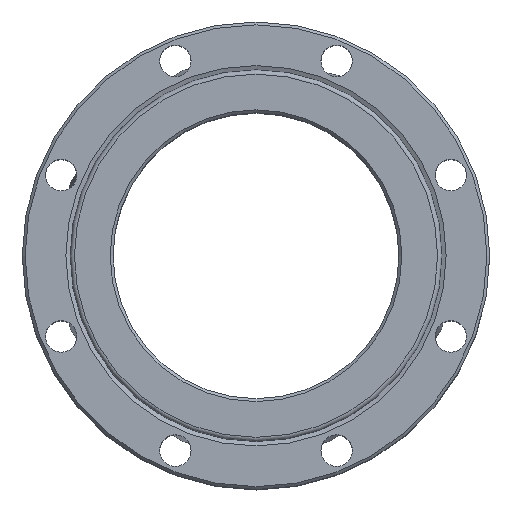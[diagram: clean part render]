
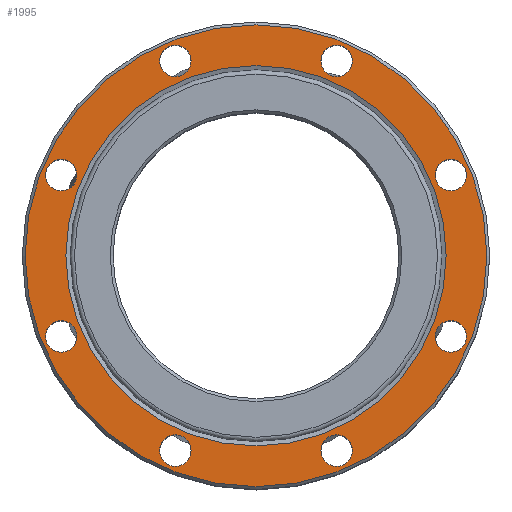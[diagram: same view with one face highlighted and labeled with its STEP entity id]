
A CAD part, top view. The second image highlights one B-rep face of the part: STEP entity #1995.
In plain terms, the highlighted planar face has unit normal (0, 0, 1).
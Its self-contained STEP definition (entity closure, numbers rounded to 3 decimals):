
#170=FACE_BOUND('',#392,.T.);
#171=FACE_BOUND('',#393,.T.);
#172=FACE_BOUND('',#394,.T.);
#173=FACE_BOUND('',#395,.T.);
#174=FACE_BOUND('',#396,.T.);
#175=FACE_BOUND('',#397,.T.);
#176=FACE_BOUND('',#398,.T.);
#177=FACE_BOUND('',#399,.T.);
#178=FACE_BOUND('',#400,.T.);
#187=PLANE('',#2160);
#257=FACE_OUTER_BOUND('',#391,.T.);
#391=EDGE_LOOP('',(#1348));
#392=EDGE_LOOP('',(#1349));
#393=EDGE_LOOP('',(#1350));
#394=EDGE_LOOP('',(#1351));
#395=EDGE_LOOP('',(#1352));
#396=EDGE_LOOP('',(#1353));
#397=EDGE_LOOP('',(#1354));
#398=EDGE_LOOP('',(#1355));
#399=EDGE_LOOP('',(#1356));
#400=EDGE_LOOP('',(#1357));
#713=CIRCLE('',#2159,161.5);
#714=CIRCLE('',#2161,11.);
#715=CIRCLE('',#2162,11.);
#716=CIRCLE('',#2163,11.);
#717=CIRCLE('',#2164,11.);
#718=CIRCLE('',#2165,11.);
#719=CIRCLE('',#2166,11.);
#720=CIRCLE('',#2167,11.);
#721=CIRCLE('',#2168,11.);
#722=CIRCLE('',#2169,133.);
#850=VERTEX_POINT('',#2958);
#851=VERTEX_POINT('',#2962);
#852=VERTEX_POINT('',#2964);
#853=VERTEX_POINT('',#2966);
#854=VERTEX_POINT('',#2968);
#855=VERTEX_POINT('',#2970);
#856=VERTEX_POINT('',#2972);
#857=VERTEX_POINT('',#2974);
#858=VERTEX_POINT('',#2976);
#859=VERTEX_POINT('',#2978);
#1046=EDGE_CURVE('',#850,#850,#713,.T.);
#1047=EDGE_CURVE('',#851,#851,#714,.T.);
#1048=EDGE_CURVE('',#852,#852,#715,.T.);
#1049=EDGE_CURVE('',#853,#853,#716,.T.);
#1050=EDGE_CURVE('',#854,#854,#717,.T.);
#1051=EDGE_CURVE('',#855,#855,#718,.T.);
#1052=EDGE_CURVE('',#856,#856,#719,.T.);
#1053=EDGE_CURVE('',#857,#857,#720,.T.);
#1054=EDGE_CURVE('',#858,#858,#721,.T.);
#1055=EDGE_CURVE('',#859,#859,#722,.T.);
#1348=ORIENTED_EDGE('',*,*,#1046,.F.);
#1349=ORIENTED_EDGE('',*,*,#1047,.F.);
#1350=ORIENTED_EDGE('',*,*,#1048,.F.);
#1351=ORIENTED_EDGE('',*,*,#1049,.F.);
#1352=ORIENTED_EDGE('',*,*,#1050,.F.);
#1353=ORIENTED_EDGE('',*,*,#1051,.F.);
#1354=ORIENTED_EDGE('',*,*,#1052,.F.);
#1355=ORIENTED_EDGE('',*,*,#1053,.F.);
#1356=ORIENTED_EDGE('',*,*,#1054,.F.);
#1357=ORIENTED_EDGE('',*,*,#1055,.T.);
#1995=ADVANCED_FACE('',(#257,#170,#171,#172,#173,#174,#175,#176,#177,#178),
#187,.F.);
#2159=AXIS2_PLACEMENT_3D('',#2960,#2433,#2434);
#2160=AXIS2_PLACEMENT_3D('',#2961,#2435,#2436);
#2161=AXIS2_PLACEMENT_3D('',#2963,#2437,#2438);
#2162=AXIS2_PLACEMENT_3D('',#2965,#2439,#2440);
#2163=AXIS2_PLACEMENT_3D('',#2967,#2441,#2442);
#2164=AXIS2_PLACEMENT_3D('',#2969,#2443,#2444);
#2165=AXIS2_PLACEMENT_3D('',#2971,#2445,#2446);
#2166=AXIS2_PLACEMENT_3D('',#2973,#2447,#2448);
#2167=AXIS2_PLACEMENT_3D('',#2975,#2449,#2450);
#2168=AXIS2_PLACEMENT_3D('',#2977,#2451,#2452);
#2169=AXIS2_PLACEMENT_3D('',#2979,#2453,#2454);
#2433=DIRECTION('center_axis',(0.,0.,-1.));
#2434=DIRECTION('ref_axis',(-1.,0.,0.));
#2435=DIRECTION('center_axis',(0.,0.,-1.));
#2436=DIRECTION('ref_axis',(-1.,0.,0.));
#2437=DIRECTION('center_axis',(0.,0.,1.));
#2438=DIRECTION('ref_axis',(1.,0.,0.));
#2439=DIRECTION('center_axis',(0.,0.,1.));
#2440=DIRECTION('ref_axis',(1.,0.,0.));
#2441=DIRECTION('center_axis',(0.,0.,1.));
#2442=DIRECTION('ref_axis',(1.,0.,0.));
#2443=DIRECTION('center_axis',(0.,0.,1.));
#2444=DIRECTION('ref_axis',(1.,0.,0.));
#2445=DIRECTION('center_axis',(0.,0.,1.));
#2446=DIRECTION('ref_axis',(1.,0.,0.));
#2447=DIRECTION('center_axis',(0.,0.,1.));
#2448=DIRECTION('ref_axis',(1.,0.,0.));
#2449=DIRECTION('center_axis',(0.,0.,1.));
#2450=DIRECTION('ref_axis',(1.,0.,0.));
#2451=DIRECTION('center_axis',(0.,0.,1.));
#2452=DIRECTION('ref_axis',(1.,0.,0.));
#2453=DIRECTION('center_axis',(0.,0.,-1.));
#2454=DIRECTION('ref_axis',(0.,1.,0.));
#2958=CARTESIAN_POINT('',(161.5,0.,101.));
#2960=CARTESIAN_POINT('Origin',(0.,0.,101.));
#2961=CARTESIAN_POINT('Origin',(0.,0.,101.));
#2962=CARTESIAN_POINT('',(-147.272,56.446,101.));
#2963=CARTESIAN_POINT('Origin',(-136.272,56.446,101.));
#2964=CARTESIAN_POINT('',(-147.272,-56.446,101.));
#2965=CARTESIAN_POINT('Origin',(-136.272,-56.446,101.));
#2966=CARTESIAN_POINT('',(-67.446,-136.272,101.));
#2967=CARTESIAN_POINT('Origin',(-56.446,-136.272,101.));
#2968=CARTESIAN_POINT('',(45.446,-136.272,101.));
#2969=CARTESIAN_POINT('Origin',(56.446,-136.272,101.));
#2970=CARTESIAN_POINT('',(125.272,-56.446,101.));
#2971=CARTESIAN_POINT('Origin',(136.272,-56.446,101.));
#2972=CARTESIAN_POINT('',(125.272,56.446,101.));
#2973=CARTESIAN_POINT('Origin',(136.272,56.446,101.));
#2974=CARTESIAN_POINT('',(45.446,136.272,101.));
#2975=CARTESIAN_POINT('Origin',(56.446,136.272,101.));
#2976=CARTESIAN_POINT('',(-67.446,136.272,101.));
#2977=CARTESIAN_POINT('Origin',(-56.446,136.272,101.));
#2978=CARTESIAN_POINT('',(0.,-133.,101.));
#2979=CARTESIAN_POINT('Origin',(0.,0.,101.));
